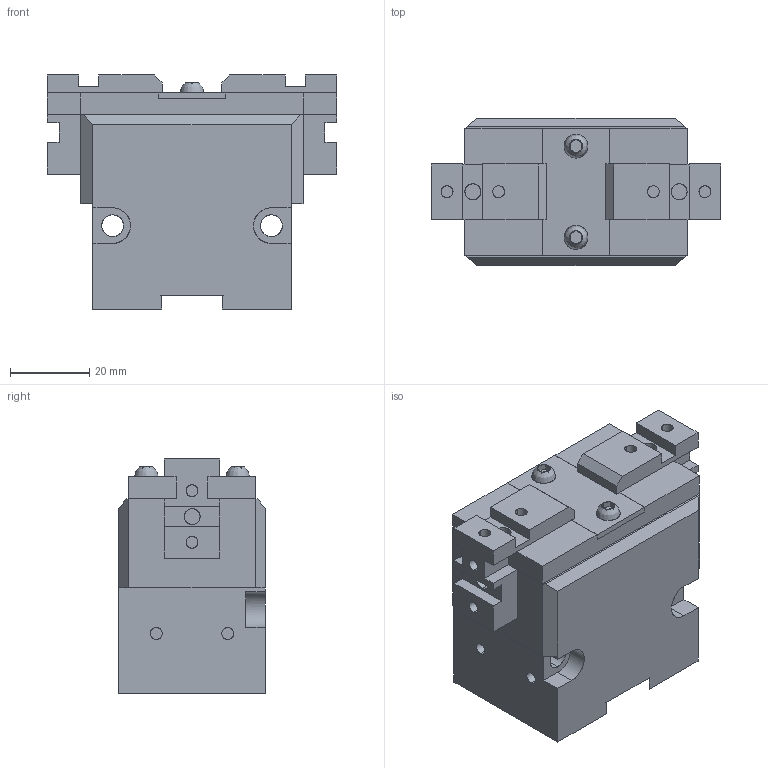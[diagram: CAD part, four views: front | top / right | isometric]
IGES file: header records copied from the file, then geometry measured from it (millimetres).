
Global section: file name: C:\Documents and Settings\Administrateur\Mes documents\OPE-60-X-OPEN.igs; native system: AutoCAD-16.0s (LMS Tech) (Microsoft Windows NT Version 5.1 (x86)); preprocessor: Autodesk IGES Translator Mechanical Desktop.R7.0.43.0 (Mar 18 2003) from Autodesk, Inc.; date: 20050628.132618; units: millimetre
Bounding box: 73 x 37 x 59 mm (x, y, z)
Surface area: 30216.6 mm2 (no closed solid volume)
Topology: 0 solids, 0 shells, 245 faces, 2108 edges, 2194 vertices
Faces by surface type: bspline 245
